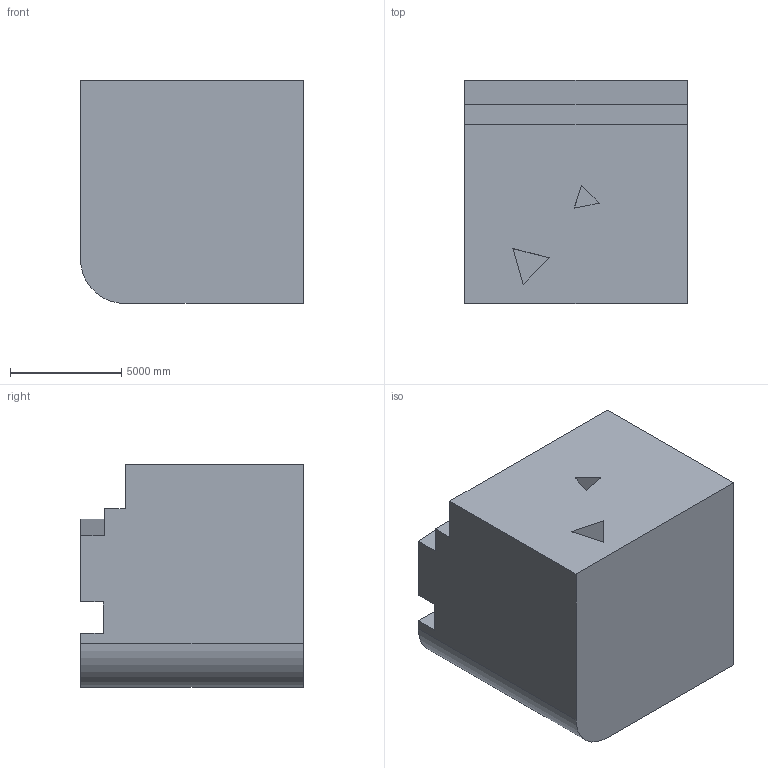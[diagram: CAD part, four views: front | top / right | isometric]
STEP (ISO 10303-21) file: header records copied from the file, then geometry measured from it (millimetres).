
FILE_DESCRIPTION (( 'STEP AP203' ), '1' );
FILE_NAME ('697.STEP', '2022-07-29T12:35:25', ( 'user' ), ( '' ), 'SwSTEP 2.0', 'SolidWorks 2021', '' );
FILE_SCHEMA (( 'CONFIG_CONTROL_DESIGN' ));
Length unit declared in the file: centimetre
Products named in the file (1): 697
Bounding box: 10000 x 10000 x 10000 mm (x, y, z)
Volume: 888794452079.6 mm3; surface area: 698189842.3 mm2
Topology: 1 solids, 1 shells, 28 faces, 69 edges, 46 vertices
Faces by surface type: plane 27, cylinder 1
Entity records: 892 total; most frequent: CARTESIAN_POINT 144, ORIENTED_EDGE 138, DIRECTION 129, EDGE_CURVE 69, LINE 67, VECTOR 67, VERTEX_POINT 46, AXIS2_PLACEMENT_3D 31
